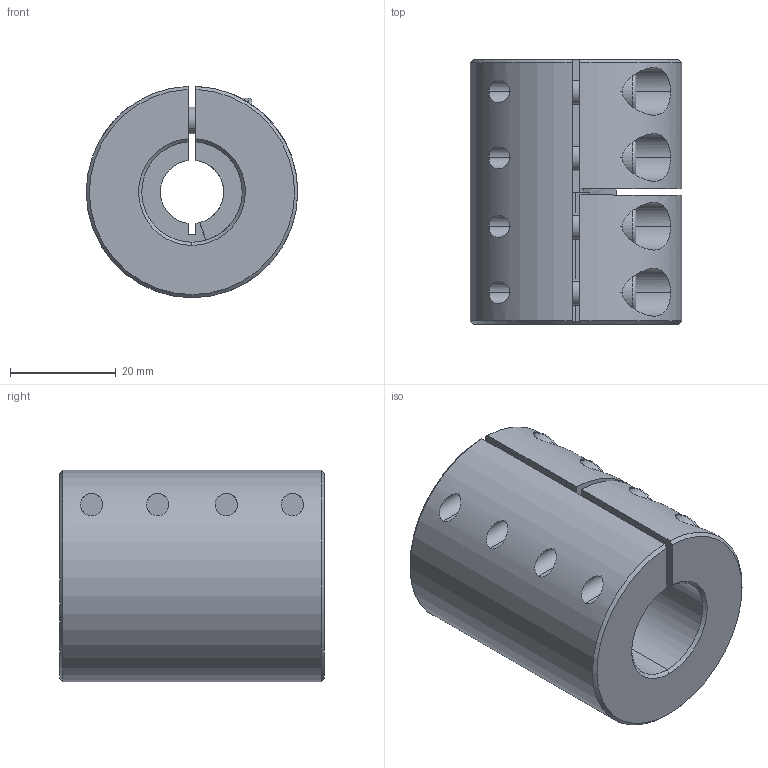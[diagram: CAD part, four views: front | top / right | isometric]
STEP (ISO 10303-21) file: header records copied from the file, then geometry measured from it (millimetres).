
FILE_DESCRIPTION (( 'STEP AP214' ), '1' );
FILE_NAME ('LL-B-D40L50-12-19½¨Ä£.STEP', '2022-07-22T00:22:55', ( '' ), ( '' ), 'SwSTEP 2.0', 'SolidWorks 2022', '' );
FILE_SCHEMA (( 'AUTOMOTIVE_DESIGN' ));
Length unit declared in the file: millimetre
Products named in the file (1): LL-B-D40L50-12-19膘耀
Bounding box: 40 x 50 x 39.99 mm (x, y, z)
Volume: 49885.3 mm3; surface area: 15448.7 mm2
Topology: 1 solids, 1 shells, 181 faces, 459 edges, 288 vertices
Faces by surface type: plane 87, cylinder 71, cone 15, torus 8
Entity records: 5971 total; most frequent: CARTESIAN_POINT 1511, DIRECTION 967, ORIENTED_EDGE 902, EDGE_CURVE 451, AXIS2_PLACEMENT_3D 376, VERTEX_POINT 288, VECTOR 215, LINE 215
